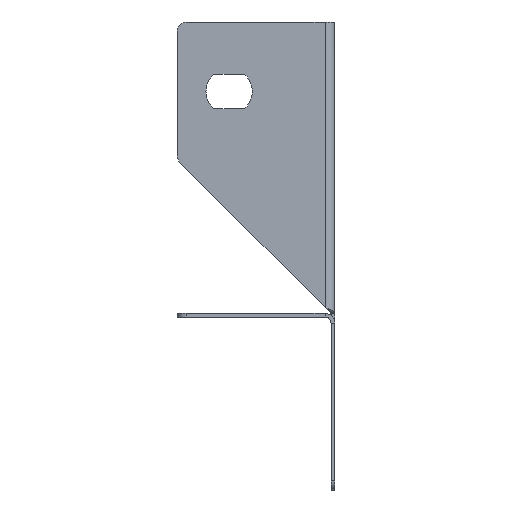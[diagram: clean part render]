
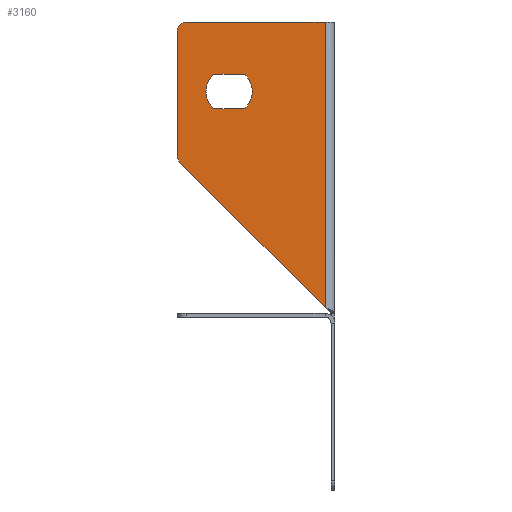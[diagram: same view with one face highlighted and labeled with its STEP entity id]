
A CAD part, left-side view. The second image highlights one B-rep face of the part: STEP entity #3160.
In plain terms, the highlighted planar face has unit normal (-1, 0, 0).
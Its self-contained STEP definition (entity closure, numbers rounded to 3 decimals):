
#2 = LINE ( 'NONE', #3162, #1188 ) ;
#6 = VERTEX_POINT ( 'NONE', #1553 ) ;
#47 = AXIS2_PLACEMENT_3D ( 'NONE', #1355, #2418, #3266 ) ;
#49 = CARTESIAN_POINT ( 'NONE',  ( -26.1, 18.693, -18.75 ) ) ;
#94 = CARTESIAN_POINT ( 'NONE',  ( -26.1, 17., -15. ) ) ;
#100 = VERTEX_POINT ( 'NONE', #884 ) ;
#124 = CARTESIAN_POINT ( 'NONE',  ( -26.1, 33.2, -29.693 ) ) ;
#131 = DIRECTION ( 'NONE',  ( 1., 0., 0. ) ) ;
#262 = AXIS2_PLACEMENT_3D ( 'NONE', #2201, #1237, #2538 ) ;
#271 = EDGE_CURVE ( 'NONE', #100, #2991, #2629, .T. ) ;
#304 = ORIENTED_EDGE ( 'NONE', *, *, #1196, .T. ) ;
#307 = DIRECTION ( 'NONE',  ( -1., 0., 0. ) ) ;
#367 = VECTOR ( 'NONE', #2667, 1000. ) ;
#381 = LINE ( 'NONE', #2721, #2320 ) ;
#407 = PLANE ( 'NONE',  #492 ) ;
#455 = LINE ( 'NONE', #1486, #2407 ) ;
#492 = AXIS2_PLACEMENT_3D ( 'NONE', #1197, #131, #3312 ) ;
#550 = CARTESIAN_POINT ( 'NONE',  ( -26.1, 22., -15. ) ) ;
#574 = VECTOR ( 'NONE', #1737, 1000. ) ;
#727 = EDGE_CURVE ( 'NONE', #1944, #6, #455, .T. ) ;
#786 = DIRECTION ( 'NONE',  ( 0., 1., 0. ) ) ;
#803 = CARTESIAN_POINT ( 'NONE',  ( -26.1, 32.614, -30.279 ) ) ;
#815 = ORIENTED_EDGE ( 'NONE', *, *, #271, .F. ) ;
#847 = EDGE_CURVE ( 'NONE', #100, #898, #2, .T. ) ;
#884 = CARTESIAN_POINT ( 'NONE',  ( -26.1, 1.3, 0. ) ) ;
#898 = VERTEX_POINT ( 'NONE', #3214 ) ;
#993 = ORIENTED_EDGE ( 'NONE', *, *, #1463, .T. ) ;
#1016 = VERTEX_POINT ( 'NONE', #1155 ) ;
#1021 = EDGE_CURVE ( 'NONE', #1890, #2991, #2499, .T. ) ;
#1076 = DIRECTION ( 'NONE',  ( 0., -1., 0. ) ) ;
#1140 = CIRCLE ( 'NONE', #262, 2. ) ;
#1155 = CARTESIAN_POINT ( 'NONE',  ( -26.1, 25.307, -18.75 ) ) ;
#1182 = DIRECTION ( 'NONE',  ( -1., 0., 0. ) ) ;
#1188 = VECTOR ( 'NONE', #786, 1000. ) ;
#1196 = EDGE_CURVE ( 'NONE', #1658, #1016, #2395, .T. ) ;
#1197 = CARTESIAN_POINT ( 'NONE',  ( -26.1, 0., 0. ) ) ;
#1237 = DIRECTION ( 'NONE',  ( -1., 0., 0. ) ) ;
#1246 = AXIS2_PLACEMENT_3D ( 'NONE', #3361, #1182, #1249 ) ;
#1249 = DIRECTION ( 'NONE',  ( 0., -1., 0. ) ) ;
#1355 = CARTESIAN_POINT ( 'NONE',  ( -26.1, 22., -15. ) ) ;
#1363 = CIRCLE ( 'NONE', #1985, 5. ) ;
#1415 = FACE_OUTER_BOUND ( 'NONE', #2148, .T. ) ;
#1421 = EDGE_CURVE ( 'NONE', #1944, #1016, #3237, .T. ) ;
#1463 = EDGE_CURVE ( 'NONE', #2411, #1890, #1907, .T. ) ;
#1486 = CARTESIAN_POINT ( 'NONE',  ( -26.1, 25.307, -11.25 ) ) ;
#1537 = DIRECTION ( 'NONE',  ( 0., 1., 0. ) ) ;
#1553 = CARTESIAN_POINT ( 'NONE',  ( -26.1, 18.693, -11.25 ) ) ;
#1615 = ORIENTED_EDGE ( 'NONE', *, *, #847, .T. ) ;
#1639 = CIRCLE ( 'NONE', #47, 5. ) ;
#1658 = VERTEX_POINT ( 'NONE', #2985 ) ;
#1659 = ORIENTED_EDGE ( 'NONE', *, *, #2828, .F. ) ;
#1691 = AXIS2_PLACEMENT_3D ( 'NONE', #2084, #2879, #1537 ) ;
#1720 = VERTEX_POINT ( 'NONE', #94 ) ;
#1737 = DIRECTION ( 'NONE',  ( 0., 0., -1. ) ) ;
#1795 = EDGE_LOOP ( 'NONE', ( #304, #3165, #3117, #3135, #1659 ) ) ;
#1817 = ORIENTED_EDGE ( 'NONE', *, *, #1021, .T. ) ;
#1890 = VERTEX_POINT ( 'NONE', #803 ) ;
#1907 = CIRCLE ( 'NONE', #1691, 2. ) ;
#1944 = VERTEX_POINT ( 'NONE', #2860 ) ;
#1950 = DIRECTION ( 'NONE',  ( 0., -0.707, -0.707 ) ) ;
#1985 = AXIS2_PLACEMENT_3D ( 'NONE', #550, #307, #1076 ) ;
#2084 = CARTESIAN_POINT ( 'NONE',  ( -26.1, 31.2, -28.864 ) ) ;
#2137 = EDGE_CURVE ( 'NONE', #898, #2831, #1140, .T. ) ;
#2142 = CARTESIAN_POINT ( 'NONE',  ( -26.1, 33.2, -2. ) ) ;
#2148 = EDGE_LOOP ( 'NONE', ( #1615, #3353, #2735, #993, #1817, #815 ) ) ;
#2187 = FACE_BOUND ( 'NONE', #1795, .T. ) ;
#2201 = CARTESIAN_POINT ( 'NONE',  ( -26.1, 31.2, -2. ) ) ;
#2320 = VECTOR ( 'NONE', #2437, 1000. ) ;
#2395 = LINE ( 'NONE', #49, #367 ) ;
#2407 = VECTOR ( 'NONE', #3335, 1000. ) ;
#2411 = VERTEX_POINT ( 'NONE', #3378 ) ;
#2418 = DIRECTION ( 'NONE',  ( -1., 0., 0. ) ) ;
#2437 = DIRECTION ( 'NONE',  ( 0., 0., -1. ) ) ;
#2499 = LINE ( 'NONE', #124, #2804 ) ;
#2538 = DIRECTION ( 'NONE',  ( 0., 1., 0. ) ) ;
#2627 = CARTESIAN_POINT ( 'NONE',  ( -26.1, 1.3, -61.593 ) ) ;
#2629 = LINE ( 'NONE', #2847, #574 ) ;
#2667 = DIRECTION ( 'NONE',  ( 0., 1., 0. ) ) ;
#2721 = CARTESIAN_POINT ( 'NONE',  ( -26.1, 33.2, 0. ) ) ;
#2735 = ORIENTED_EDGE ( 'NONE', *, *, #2835, .T. ) ;
#2804 = VECTOR ( 'NONE', #1950, 1000. ) ;
#2828 = EDGE_CURVE ( 'NONE', #1658, #1720, #1363, .T. ) ;
#2831 = VERTEX_POINT ( 'NONE', #2142 ) ;
#2834 = EDGE_CURVE ( 'NONE', #1720, #6, #1639, .T. ) ;
#2835 = EDGE_CURVE ( 'NONE', #2831, #2411, #381, .T. ) ;
#2847 = CARTESIAN_POINT ( 'NONE',  ( -26.1, 1.3, -63. ) ) ;
#2860 = CARTESIAN_POINT ( 'NONE',  ( -26.1, 25.307, -11.25 ) ) ;
#2879 = DIRECTION ( 'NONE',  ( -1., 0., 0. ) ) ;
#2985 = CARTESIAN_POINT ( 'NONE',  ( -26.1, 18.693, -18.75 ) ) ;
#2991 = VERTEX_POINT ( 'NONE', #2627 ) ;
#3117 = ORIENTED_EDGE ( 'NONE', *, *, #727, .T. ) ;
#3135 = ORIENTED_EDGE ( 'NONE', *, *, #2834, .F. ) ;
#3160 = ADVANCED_FACE ( 'NONE', ( #2187, #1415 ), #407, .F. ) ;
#3162 = CARTESIAN_POINT ( 'NONE',  ( -26.1, 0., 0. ) ) ;
#3165 = ORIENTED_EDGE ( 'NONE', *, *, #1421, .F. ) ;
#3214 = CARTESIAN_POINT ( 'NONE',  ( -26.1, 31.2, 0. ) ) ;
#3237 = CIRCLE ( 'NONE', #1246, 5. ) ;
#3266 = DIRECTION ( 'NONE',  ( 0., -1., 0. ) ) ;
#3312 = DIRECTION ( 'NONE',  ( 0., 1., 0. ) ) ;
#3335 = DIRECTION ( 'NONE',  ( 0., -1., 0. ) ) ;
#3353 = ORIENTED_EDGE ( 'NONE', *, *, #2137, .T. ) ;
#3361 = CARTESIAN_POINT ( 'NONE',  ( -26.1, 22., -15. ) ) ;
#3378 = CARTESIAN_POINT ( 'NONE',  ( -26.1, 33.2, -28.864 ) ) ;
